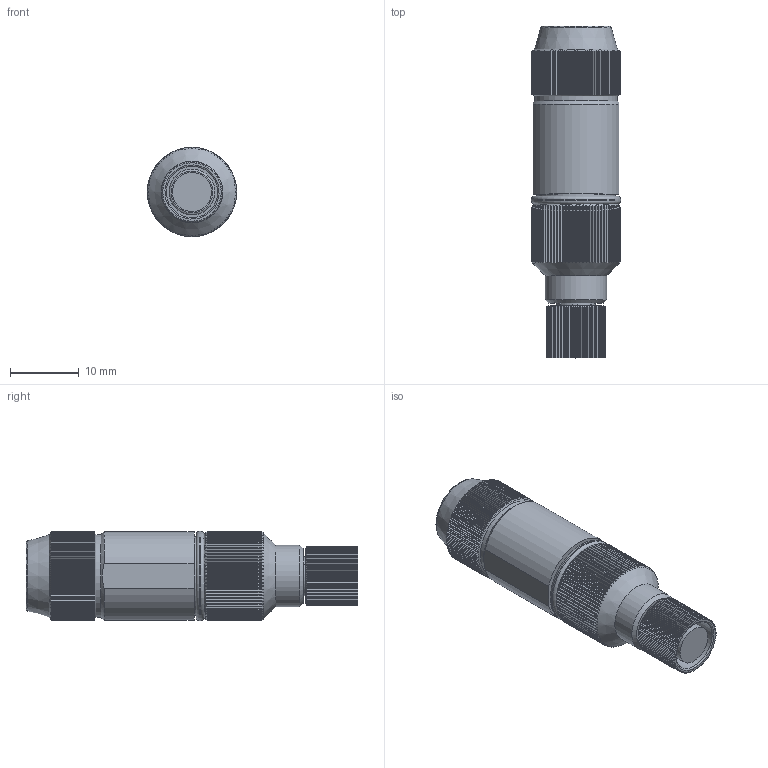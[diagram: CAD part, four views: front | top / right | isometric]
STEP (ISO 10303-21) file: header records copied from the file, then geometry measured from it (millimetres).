
FILE_DESCRIPTION((''),'2;1');
FILE_NAME('C:\TurckZip\B_51_6.stp','2006-11-10T12:28:37',('IKOROL'),(''),'Autodesk Inventor 11','Autodesk Inventor 11','');
FILE_SCHEMA(('AUTOMOTIVE_DESIGN { 1 0 10303 214 1 1 1 1 }'));
Length unit declared in the file: millimetre
Products named in the file (1): Part4
Bounding box: 13 x 48.4 x 13 mm (x, y, z)
Volume: 4787.7 mm3; surface area: 2962 mm2
Topology: 1 solids, 1 shells, 1067 faces, 3162 edges, 2105 vertices
Faces by surface type: plane 816, cylinder 237, cone 9, torus 4, bspline 1
Full cylindrical faces by diameter (mm): 5.1 x1, 5.7 x1, 7.5 x1, 9 x1, 11.5 x1, 12.1 x1, 13 x1
Entity records: 34175 total; most frequent: CARTESIAN_POINT 8648, ORIENTED_EDGE 6266, DIRECTION 4670, EDGE_CURVE 3133, VERTEX_POINT 2097, AXIS2_PLACEMENT_3D 1632, VECTOR 1406, LINE 1406
